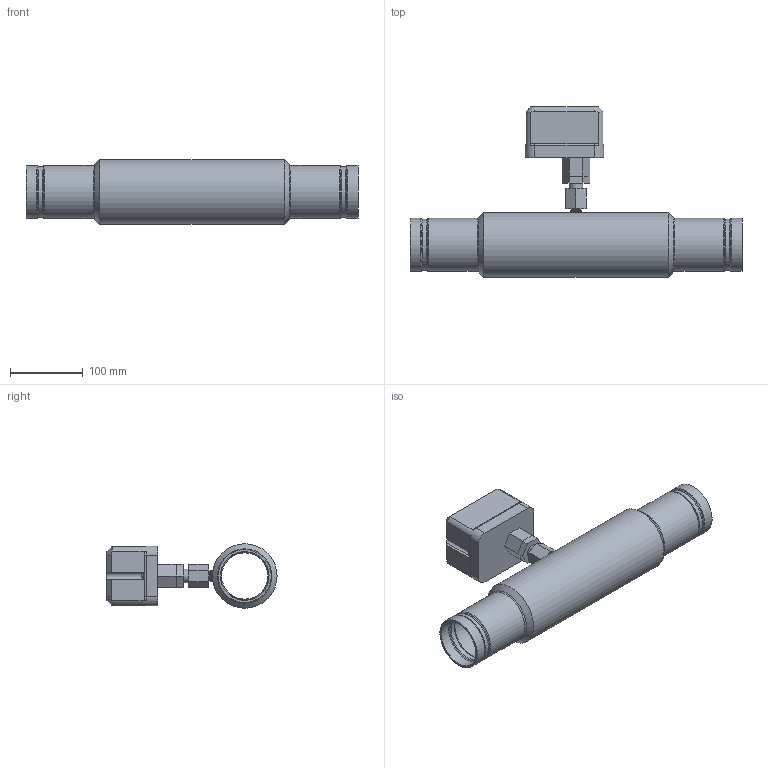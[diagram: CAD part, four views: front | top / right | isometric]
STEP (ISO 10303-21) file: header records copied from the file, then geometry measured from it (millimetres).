
FILE_DESCRIPTION(/* description */ (''),/* implementation_level */ '2;1');
FILE_NAME(/* name */ 'C:\Users\myoung\Box\ECS CAD Library\ECS Products\ILD-X Inline Detector\Export\ILD-2.5B10.stp',/* time_stamp */ '2020-05-05T15:37:14-05:00',/* author */ ('myoung'),/* organization */ (''),/* preprocessor_version */ 'ST-DEVELOPER v18',/* originating_system */ 'Autodesk Inventor 2020',/* authorisation */ '');
FILE_SCHEMA (('AUTOMOTIVE_DESIGN { 1 0 10303 214 3 1 1 }'));
Length unit declared in the file: inch
Products named in the file (1): ILD-2.5B10
Bounding box: 457.2 x 234.27 x 88.9 mm (x, y, z)
Volume: 1093363 mm3; surface area: 390948.9 mm2
Topology: 3 solids, 3 shells, 174 faces, 467 edges, 309 vertices
Faces by surface type: plane 63, cone 44, cylinder 33, torus 22, bspline 12
Full cylindrical faces by diameter (mm): 1.524 x2, 7.112 x1, 7.62 x2, 12.359 x1, 19.05 x1, 63.729 x2, 66.929 x3, 68.707 x1, 69.825 x2, 73.025 x6, 82.829 x1, 88.9 x1
Entity records: 16234 total; most frequent: CARTESIAN_POINT 11700, ORIENTED_EDGE 934, DIRECTION 876, EDGE_CURVE 467, AXIS2_PLACEMENT_3D 352, VERTEX_POINT 309, EDGE_LOOP 190, CIRCLE 184
